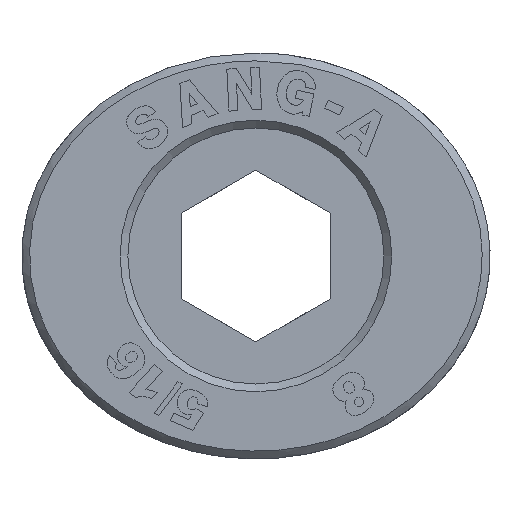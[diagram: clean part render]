
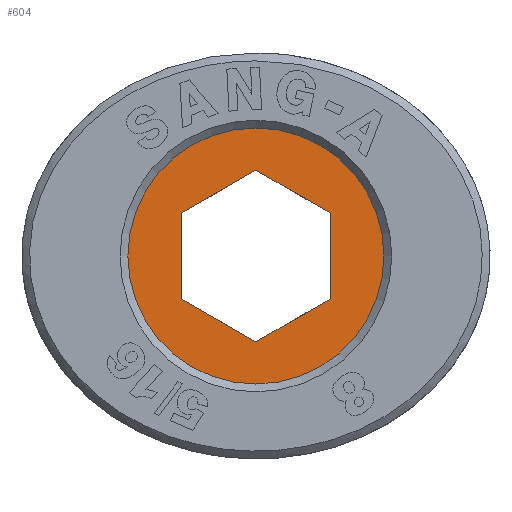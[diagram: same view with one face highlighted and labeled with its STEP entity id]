
A CAD part, left-side view. The second image highlights one B-rep face of the part: STEP entity #604.
In plain terms, the highlighted planar face has unit normal (-1, 0, 0).
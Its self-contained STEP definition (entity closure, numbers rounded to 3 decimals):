
#222=CARTESIAN_POINT('',(13.1,0.,2.75));
#223=VERTEX_POINT('',#222);
#230=CARTESIAN_POINT('',(13.1,2.381,1.375));
#231=VERTEX_POINT('',#230);
#232=CARTESIAN_POINT('',(13.1,2.381,1.375));
#233=DIRECTION('',(0.0,-0.866,0.5));
#234=VECTOR('',#233,2.75);
#235=LINE('',#232,#234);
#236=EDGE_CURVE('',#231,#223,#235,.T.);
#253=CARTESIAN_POINT('',(13.1,-2.381,1.375));
#254=VERTEX_POINT('',#253);
#261=CARTESIAN_POINT('',(13.1,0.,2.75));
#262=DIRECTION('',(0.0,-0.866,-0.5));
#263=VECTOR('',#262,2.75);
#264=LINE('',#261,#263);
#265=EDGE_CURVE('',#223,#254,#264,.T.);
#277=CARTESIAN_POINT('',(13.1,-2.381,-1.375));
#278=VERTEX_POINT('',#277);
#285=CARTESIAN_POINT('',(13.1,-2.381,1.375));
#286=DIRECTION('',(0.0,0.0,-1.0));
#287=VECTOR('',#286,2.75);
#288=LINE('',#285,#287);
#289=EDGE_CURVE('',#254,#278,#288,.T.);
#501=CARTESIAN_POINT('',(13.1,0.,-2.75));
#502=VERTEX_POINT('',#501);
#509=CARTESIAN_POINT('',(13.1,-2.381,-1.375));
#510=DIRECTION('',(0.0,0.866,-0.5));
#511=VECTOR('',#510,2.75);
#512=LINE('',#509,#511);
#513=EDGE_CURVE('',#278,#502,#512,.T.);
#525=CARTESIAN_POINT('',(13.1,2.381,-1.375));
#526=VERTEX_POINT('',#525);
#533=CARTESIAN_POINT('',(13.1,0.,-2.75));
#534=DIRECTION('',(0.0,0.866,0.5));
#535=VECTOR('',#534,2.75);
#536=LINE('',#533,#535);
#537=EDGE_CURVE('',#502,#526,#536,.T.);
#550=CARTESIAN_POINT('',(13.1,2.381,-1.375));
#551=DIRECTION('',(0.0,0.0,1.0));
#552=VECTOR('',#551,2.75);
#553=LINE('',#550,#552);
#554=EDGE_CURVE('',#526,#231,#553,.T.);
#576=CARTESIAN_POINT('',(13.1,0.0,4.1));
#577=VERTEX_POINT('',#576);
#578=CARTESIAN_POINT('',(13.1,0.0,0.));
#579=DIRECTION('',(1.0,0.0,0.0));
#580=DIRECTION('',(0.0,0.0,1.0));
#581=AXIS2_PLACEMENT_3D('',#578,#579,#580);
#582=CIRCLE('',#581,4.1);
#583=EDGE_CURVE('',#577,#577,#582,.T.);
#588=CARTESIAN_POINT('',(13.1,0.0,3.241));
#589=DIRECTION('',(1.0,0.0,0.0));
#590=DIRECTION('',(0.0,0.0,-1.0));
#591=AXIS2_PLACEMENT_3D('',#588,#589,#590);
#592=PLANE('',#591);
#593=ORIENTED_EDGE('',*,*,#583,.F.);
#594=EDGE_LOOP('',(#593));
#595=FACE_OUTER_BOUND('',#594,.T.);
#596=ORIENTED_EDGE('',*,*,#236,.T.);
#597=ORIENTED_EDGE('',*,*,#265,.T.);
#598=ORIENTED_EDGE('',*,*,#289,.T.);
#599=ORIENTED_EDGE('',*,*,#513,.T.);
#600=ORIENTED_EDGE('',*,*,#537,.T.);
#601=ORIENTED_EDGE('',*,*,#554,.T.);
#602=EDGE_LOOP('',(#596,#597,#598,#599,#600,#601));
#603=FACE_BOUND('',#602,.T.);
#604=ADVANCED_FACE('',(#595,#603),#592,.F.);
